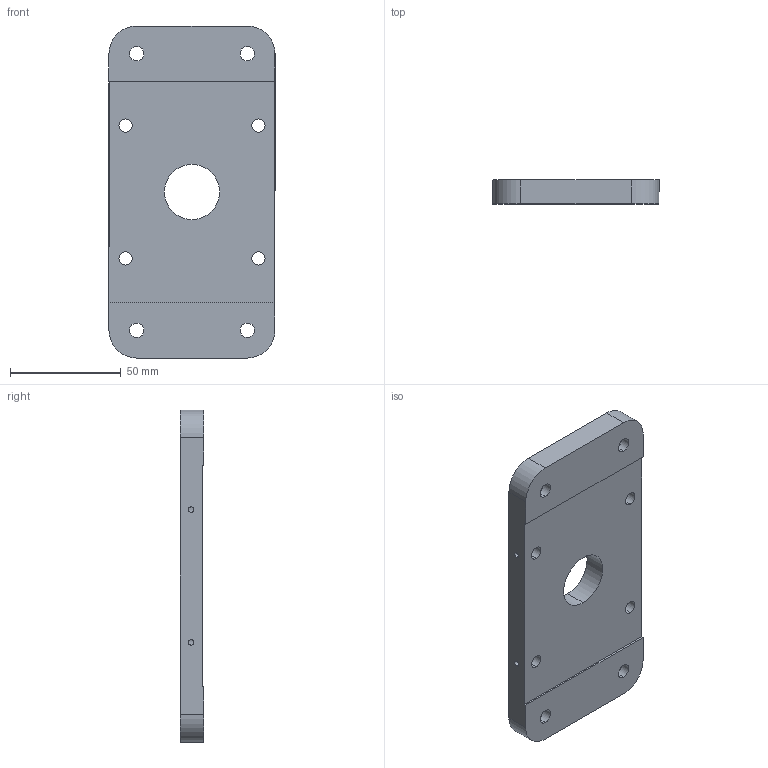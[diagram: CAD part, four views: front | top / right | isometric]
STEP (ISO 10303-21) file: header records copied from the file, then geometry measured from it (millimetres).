
FILE_DESCRIPTION (( 'STEP AP214' ), '1' );
FILE_NAME ('Objective holder plate M25x0.75.STEP', '2017-07-14T21:19:05', ( '' ), ( '' ), 'SwSTEP 2.0', 'SolidWorks 2016', '' );
FILE_SCHEMA (( 'AUTOMOTIVE_DESIGN' ));
Length unit declared in the file: millimetre
Products named in the file (1): Objective holder plate M25x0.75
Bounding box: 75 x 10.8 x 150 mm (x, y, z)
Volume: 104887.1 mm3; surface area: 28233.2 mm2
Topology: 1 solids, 1 shells, 52 faces, 138 edges, 92 vertices
Faces by surface type: cylinder 38, plane 14
Entity records: 1998 total; most frequent: CARTESIAN_POINT 451, DIRECTION 304, ORIENTED_EDGE 276, EDGE_CURVE 138, AXIS2_PLACEMENT_3D 121, VERTEX_POINT 92, EDGE_LOOP 82, CIRCLE 68
